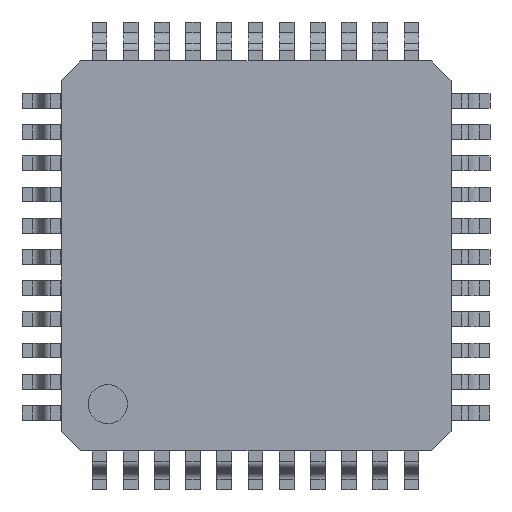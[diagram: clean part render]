
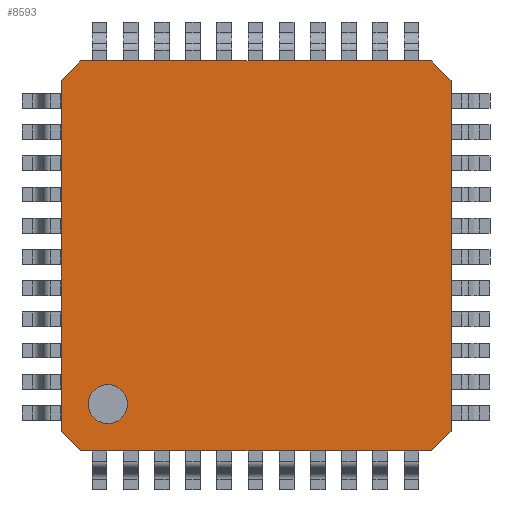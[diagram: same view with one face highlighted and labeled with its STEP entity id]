
A CAD part, top view. The second image highlights one B-rep face of the part: STEP entity #8593.
In plain terms, the highlighted planar face has unit normal (0, 0, 1).
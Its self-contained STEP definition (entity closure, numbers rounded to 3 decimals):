
#33 = ORIENTED_EDGE ( 'NONE', *, *, #27260, .T. ) ;
#554 = VECTOR ( 'NONE', #11433, 1000. ) ;
#777 = EDGE_LOOP ( 'NONE', ( #21592, #33, #19344, #24929, #12935, #13737, #23888, #7774 ) ) ;
#960 = DIRECTION ( 'NONE',  ( 0.707, 0.707, 0. ) ) ;
#1336 = CARTESIAN_POINT ( 'NONE',  ( -1.883, 1.278, 9.466 ) ) ;
#1650 = CARTESIAN_POINT ( 'NONE',  ( -1.383, 1.278, 9.466 ) ) ;
#1744 = CARTESIAN_POINT ( 'NONE',  ( 7.417, 9.578, 9.466 ) ) ;
#1995 = LINE ( 'NONE', #17563, #21431 ) ;
#2098 = DIRECTION ( 'NONE',  ( 0., 0., 1. ) ) ;
#2259 = LINE ( 'NONE', #26501, #5307 ) ;
#2442 = CARTESIAN_POINT ( 'NONE',  ( -2.583, 9.578, 9.466 ) ) ;
#2747 = EDGE_CURVE ( 'NONE', #8920, #26567, #3764, .T. ) ;
#2866 = VERTEX_POINT ( 'NONE', #6281 ) ;
#3167 = CARTESIAN_POINT ( 'NONE',  ( -2.083, 10.078, 9.466 ) ) ;
#3318 = CARTESIAN_POINT ( 'NONE',  ( -2.583, 0.078, 9.466 ) ) ;
#3432 = ORIENTED_EDGE ( 'NONE', *, *, #16027, .F. ) ;
#3600 = EDGE_CURVE ( 'NONE', #22825, #2866, #16265, .T. ) ;
#3764 = LINE ( 'NONE', #24154, #3971 ) ;
#3971 = VECTOR ( 'NONE', #27221, 1000. ) ;
#5044 = AXIS2_PLACEMENT_3D ( 'NONE', #22252, #2098, #6094 ) ;
#5298 = LINE ( 'NONE', #13975, #21764 ) ;
#5307 = VECTOR ( 'NONE', #13434, 1000. ) ;
#5496 = LINE ( 'NONE', #3318, #5978 ) ;
#5965 = VERTEX_POINT ( 'NONE', #1336 ) ;
#5968 = CIRCLE ( 'NONE', #5044, 0.5 ) ;
#5978 = VECTOR ( 'NONE', #26061, 1000. ) ;
#6094 = DIRECTION ( 'NONE',  ( 1., 0., 0. ) ) ;
#6281 = CARTESIAN_POINT ( 'NONE',  ( 6.917, 0.078, 9.466 ) ) ;
#6583 = VERTEX_POINT ( 'NONE', #7160 ) ;
#7160 = CARTESIAN_POINT ( 'NONE',  ( -2.583, 0.578, 9.466 ) ) ;
#7774 = ORIENTED_EDGE ( 'NONE', *, *, #23031, .T. ) ;
#7847 = VERTEX_POINT ( 'NONE', #25128 ) ;
#8593 = ADVANCED_FACE ( 'NONE', ( #20358, #11116 ), #13465, .T. ) ;
#8638 = DIRECTION ( 'NONE',  ( -0.707, 0.707, 0. ) ) ;
#8920 = VERTEX_POINT ( 'NONE', #14396 ) ;
#10203 = DIRECTION ( 'NONE',  ( 0., -1., 0. ) ) ;
#10794 = VERTEX_POINT ( 'NONE', #17239 ) ;
#11116 = FACE_OUTER_BOUND ( 'NONE', #777, .T. ) ;
#11194 = AXIS2_PLACEMENT_3D ( 'NONE', #1650, #28958, #19581 ) ;
#11225 = VERTEX_POINT ( 'NONE', #2442 ) ;
#11433 = DIRECTION ( 'NONE',  ( -0.707, -0.707, 0. ) ) ;
#11657 = CIRCLE ( 'NONE', #11194, 0.5 ) ;
#12935 = ORIENTED_EDGE ( 'NONE', *, *, #3600, .F. ) ;
#13246 = CARTESIAN_POINT ( 'NONE',  ( -2.083, 10.078, 9.466 ) ) ;
#13434 = DIRECTION ( 'NONE',  ( -1., 0., 0. ) ) ;
#13465 = PLANE ( 'NONE',  #15016 ) ;
#13737 = ORIENTED_EDGE ( 'NONE', *, *, #23378, .T. ) ;
#13975 = CARTESIAN_POINT ( 'NONE',  ( 7.417, 10.078, 9.466 ) ) ;
#14186 = DIRECTION ( 'NONE',  ( 0., 0., 1. ) ) ;
#14396 = CARTESIAN_POINT ( 'NONE',  ( 6.917, 10.078, 9.466 ) ) ;
#15016 = AXIS2_PLACEMENT_3D ( 'NONE', #27694, #14186, #20912 ) ;
#15607 = EDGE_CURVE ( 'NONE', #7847, #6583, #1995, .T. ) ;
#16027 = EDGE_CURVE ( 'NONE', #10794, #5965, #5968, .T. ) ;
#16265 = LINE ( 'NONE', #27300, #554 ) ;
#17239 = CARTESIAN_POINT ( 'NONE',  ( -0.883, 1.278, 9.466 ) ) ;
#17563 = CARTESIAN_POINT ( 'NONE',  ( -2.083, 0.078, 9.466 ) ) ;
#19077 = EDGE_CURVE ( 'NONE', #7847, #2866, #5496, .T. ) ;
#19344 = ORIENTED_EDGE ( 'NONE', *, *, #15607, .F. ) ;
#19581 = DIRECTION ( 'NONE',  ( 1., 0., 0. ) ) ;
#20317 = EDGE_CURVE ( 'NONE', #11225, #25056, #23295, .T. ) ;
#20358 = FACE_BOUND ( 'NONE', #27732, .T. ) ;
#20362 = CARTESIAN_POINT ( 'NONE',  ( -2.583, 10.078, 9.466 ) ) ;
#20912 = DIRECTION ( 'NONE',  ( 1., 0., 0. ) ) ;
#21075 = CARTESIAN_POINT ( 'NONE',  ( 7.417, 0.578, 9.466 ) ) ;
#21431 = VECTOR ( 'NONE', #8638, 1000. ) ;
#21592 = ORIENTED_EDGE ( 'NONE', *, *, #20317, .F. ) ;
#21764 = VECTOR ( 'NONE', #23240, 1000. ) ;
#22252 = CARTESIAN_POINT ( 'NONE',  ( -1.383, 1.278, 9.466 ) ) ;
#22825 = VERTEX_POINT ( 'NONE', #21075 ) ;
#23031 = EDGE_CURVE ( 'NONE', #8920, #25056, #2259, .T. ) ;
#23161 = LINE ( 'NONE', #20362, #27556 ) ;
#23240 = DIRECTION ( 'NONE',  ( 0., 1., 0. ) ) ;
#23295 = LINE ( 'NONE', #3167, #26779 ) ;
#23378 = EDGE_CURVE ( 'NONE', #22825, #26567, #5298, .T. ) ;
#23888 = ORIENTED_EDGE ( 'NONE', *, *, #2747, .F. ) ;
#24154 = CARTESIAN_POINT ( 'NONE',  ( 6.917, 10.078, 9.466 ) ) ;
#24929 = ORIENTED_EDGE ( 'NONE', *, *, #19077, .T. ) ;
#25056 = VERTEX_POINT ( 'NONE', #13246 ) ;
#25128 = CARTESIAN_POINT ( 'NONE',  ( -2.083, 0.078, 9.466 ) ) ;
#26061 = DIRECTION ( 'NONE',  ( 1., 0., 0. ) ) ;
#26501 = CARTESIAN_POINT ( 'NONE',  ( -2.583, 10.078, 9.466 ) ) ;
#26567 = VERTEX_POINT ( 'NONE', #1744 ) ;
#26779 = VECTOR ( 'NONE', #960, 1000. ) ;
#27221 = DIRECTION ( 'NONE',  ( 0.707, -0.707, 0. ) ) ;
#27260 = EDGE_CURVE ( 'NONE', #11225, #6583, #23161, .T. ) ;
#27300 = CARTESIAN_POINT ( 'NONE',  ( 6.917, 0.078, 9.466 ) ) ;
#27311 = ORIENTED_EDGE ( 'NONE', *, *, #28421, .F. ) ;
#27556 = VECTOR ( 'NONE', #10203, 1000. ) ;
#27694 = CARTESIAN_POINT ( 'NONE',  ( 2.417, 5.078, 9.466 ) ) ;
#27732 = EDGE_LOOP ( 'NONE', ( #3432, #27311 ) ) ;
#28421 = EDGE_CURVE ( 'NONE', #5965, #10794, #11657, .T. ) ;
#28958 = DIRECTION ( 'NONE',  ( 0., 0., 1. ) ) ;
